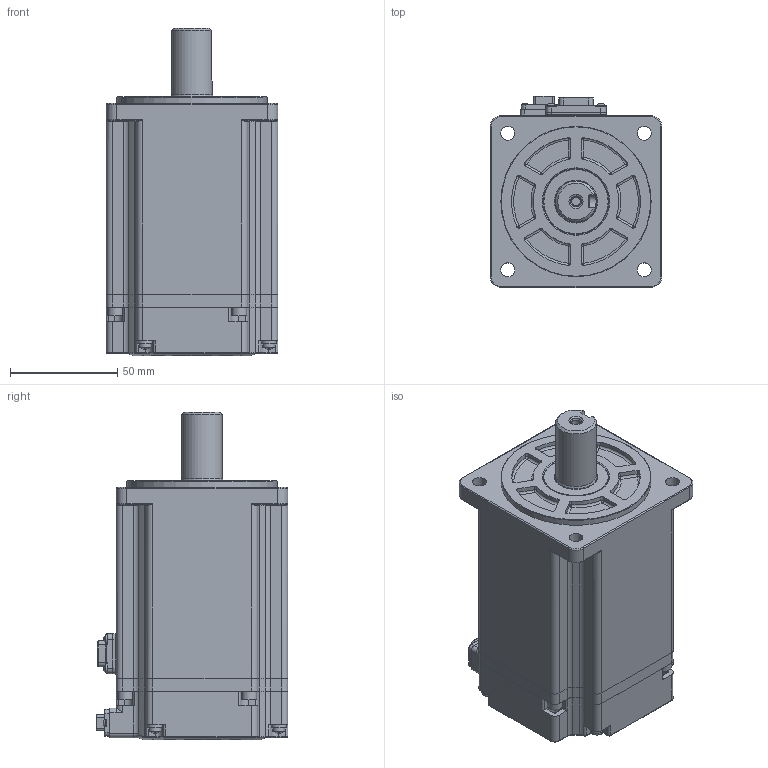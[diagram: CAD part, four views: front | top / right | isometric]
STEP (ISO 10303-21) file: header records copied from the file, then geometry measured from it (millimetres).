
FILE_DESCRIPTION(('FreeCAD Model'),'2;1');
FILE_NAME('Open CASCADE Shape Model','2025-03-17T13:11:22',('Author'),( ''),'Open CASCADE STEP processor 7.6','FreeCAD','Unknown');
FILE_SCHEMA(('AUTOMOTIVE_DESIGN { 1 0 10303 214 1 1 1 1 }'));
Length unit declared in the file: millimetre
Products named in the file (50): PSM6S-80CS30B3-21P0; PSM6S-80CS30B3-21P001; PSM6S-80CS30B3-21P002; PSM6S-80CS30B3-21P003; PSM6S-80CS30B3-21P004; PSM6S-80CS30B3-21P005; PSM6S-80CS30B3-21P006; PSM6S-80CS30B3-21P007; PSM6S-80CS30B3-21P008; PSM6S-80CS30B3-21P009; PSM6S-80CS30B3-21P010; PSM6S-80CS30B3-21P011; PSM6S-80CS30B3-21P012; PSM6S-80CS30B3-21P013; PSM6S-80CS30B3-21P014; PSM6S-80CS30B3-21P015; PSM6S-80CS30B3-21P016; PSM6S-80CS30B3-21P017; PSM6S-80CS30B3-21P018; PSM6S-80CS30B3-21P019; PSM6S-80CS30B3-21P020; PSM6S-80CS30B3-21P021; PSM6S-80CS30B3-21P022; PSM6S-80CS30B3-21P023; PSM6S-80CS30B3-21P024; PSM6S-80CS30B3-21P025; PSM6S-80CS30B3-21P026; PSM6S-80CS30B3-21P027; PSM6S-80CS30B3-21P028; PSM6S-80CS30B3-21P029; PSM6S-80CS30B3-21P030; PSM6S-80CS30B3-21P031; PSM6S-80CS30B3-21P032; PSM6S-80CS30B3-21P033; PSM6S-80CS30B3-21P034; PSM6S-80CS30B3-21P035; PSM6S-80CS30B3-21P036; PSM6S-80CS30B3-21P037; PSM6S-80CS30B3-21P038; PSM6S-80CS30B3-21P039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
Assembly tree (49 placements, depth 2):
  PSM6S-80CS30B3-21P0
    PSM6S-80CS30B3-21P001
    PSM6S-80CS30B3-21P002
    PSM6S-80CS30B3-21P003
    PSM6S-80CS30B3-21P004
    PSM6S-80CS30B3-21P005
    PSM6S-80CS30B3-21P006
    PSM6S-80CS30B3-21P007
    PSM6S-80CS30B3-21P008
    PSM6S-80CS30B3-21P009
    PSM6S-80CS30B3-21P010
    PSM6S-80CS30B3-21P011
    PSM6S-80CS30B3-21P012
    PSM6S-80CS30B3-21P013
    PSM6S-80CS30B3-21P014
    PSM6S-80CS30B3-21P015
    PSM6S-80CS30B3-21P016
    PSM6S-80CS30B3-21P017
    PSM6S-80CS30B3-21P018
    PSM6S-80CS30B3-21P019
    PSM6S-80CS30B3-21P020
    PSM6S-80CS30B3-21P021
    PSM6S-80CS30B3-21P022
    PSM6S-80CS30B3-21P023
    PSM6S-80CS30B3-21P024
    PSM6S-80CS30B3-21P025
    PSM6S-80CS30B3-21P026
    PSM6S-80CS30B3-21P027
    PSM6S-80CS30B3-21P028
    PSM6S-80CS30B3-21P029
    PSM6S-80CS30B3-21P030
    PSM6S-80CS30B3-21P031
    PSM6S-80CS30B3-21P032
    PSM6S-80CS30B3-21P033
    PSM6S-80CS30B3-21P034
    PSM6S-80CS30B3-21P035
    PSM6S-80CS30B3-21P036
    PSM6S-80CS30B3-21P037
    PSM6S-80CS30B3-21P038
    PSM6S-80CS30B3-21P039
    PSM6S-80CS30B3-21P040
    PSM6S-80CS30B3-21P041
    PSM6S-80CS30B3-21P042
    PSM6S-80CS30B3-21P043
    PSM6S-80CS30B3-21P044
    PSM6S-80CS30B3-21P045
    PSM6S-80CS30B3-21P046
    PSM6S-80CS30B3-21P047
    PSM6S-80CS30B3-21P048
    PSM6S-80CS30B3-21P049
Bounding box: 80 x 89.3 x 152.6 mm (x, y, z)
Surface area: 64259.4 mm2 (no closed solid volume)
Topology: 0 solids, 49 shells, 809 faces, 2681 edges, 1883 vertices
Faces by surface type: plane 381, cylinder 278, torus 81, sphere 32, bspline 18, cone 17, revolution 2
Full cylindrical faces by diameter (mm): 1.6 x2, 2.1 x4, 3.5 x2, 4 x4, 4.2 x1, 5.6 x4, 6.5 x4, 7 x8, 19 x1, 19.8 x1, 20 x1, 26.9 x1, 30 x1, 42 x1, 70 x1
Entity records: 31629 total; most frequent: CARTESIAN_POINT 6861, DIRECTION 5205, ORIENTED_EDGE 4338, EDGE_CURVE 2660, VERTEX_POINT 1883, AXIS2_PLACEMENT_3D 1854, LINE 1495, VECTOR 1495
